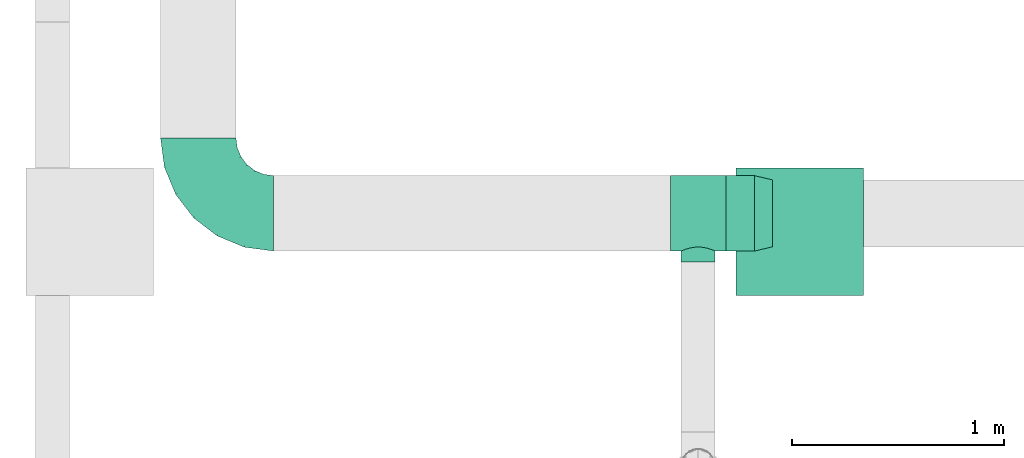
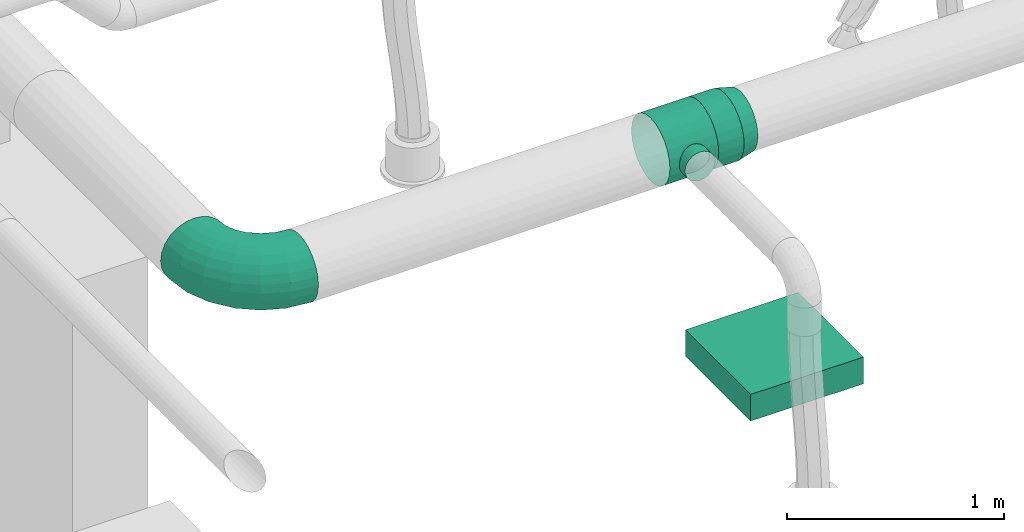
# One storey, part 74 of 374: 3 flow fittings, 1 distribution element, 1 flow segment.
"""IFC2X3 building model written with IfcOpenShell, lengths in metres."""

from ifc_helpers import new_model, si_unit, direction, frame, frame_2d, origin, place, context, subcontext, project, spatial, rectangle, extrude, open_shell, surface_model, source, transform, mapped, element, save


model = new_model("IFC2X3")

# Units and contexts
model_context = context("Model", 3, precision=1e-05, world=origin(), true_north=direction((-0.4480736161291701, 0.8939966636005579)))
body_context = subcontext(model_context, "Body", "Model", "MODEL_VIEW")
ifc_project = project(units=[si_unit("LENGTHUNIT", "METRE"), si_unit("AREAUNIT", "SQUARE_METRE"), si_unit("VOLUMEUNIT", "CUBIC_METRE"), si_unit("PLANEANGLEUNIT", "RADIAN"), si_unit("THERMODYNAMICTEMPERATUREUNIT", "KELVIN"), si_unit("MASSUNIT", "GRAM", prefix="KILO"), si_unit("TIMEUNIT", "SECOND")], contexts=[model_context])

# Site, building, storey
site_placement = place(None, origin())
site = spatial("IfcSite", under=ifc_project, at=site_placement, Name="Site 1", CompositionType="ELEMENT")
building_placement = place(site_placement, origin())
building = spatial("IfcBuilding", under=site, at=building_placement, Name="Undefined", CompositionType="ELEMENT")
storey_placement = place(building_placement, origin())
storey = spatial("IfcBuildingStorey", under=building, at=storey_placement, Name="Rez de chauss\x8ee", CompositionType="ELEMENT", Elevation=0.0)

# Flow fitting
shared_shape_1 = source(origin(), body_context, "Body", "SurfaceModel", [
    surface_model("IfcFaceBasedSurfaceModel", [(0.0, 0.046336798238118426, 0.0), (0.0, 0.0, 0.0), (0.2599999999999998, -7.105427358e-15, 0.0), (0.259999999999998, 0.04633679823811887, 0.0), (0.0, -0.044757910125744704, -0.0119928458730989), (0.259999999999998, -0.04475791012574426, -0.0119928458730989), (0.0, -0.08488675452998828, -0.035161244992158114), (0.259999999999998, -0.08488675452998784, -0.03516124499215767), (0.0, -0.11765181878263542, -0.06792630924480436), (0.259999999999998, -0.11765181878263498, -0.06792630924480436), (0.0, -0.1408202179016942, -0.10805515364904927), (0.259999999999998, -0.14082021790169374, -0.10805515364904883), (0.0, -0.15281306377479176, -0.15281306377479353), (0.259999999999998, -0.1528130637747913, -0.15281306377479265), (0.0, -0.1528130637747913, -0.19914986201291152), (0.259999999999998, -0.15281306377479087, -0.19914986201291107), (0.0, -0.14082021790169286, -0.24390777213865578), (0.259999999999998, -0.14082021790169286, -0.24390777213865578), (0.0, -0.11765181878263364, -0.2840366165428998), (0.259999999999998, -0.1176518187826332, -0.28403661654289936), (0.0, -0.0848867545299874, -0.31680168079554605), (0.259999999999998, -0.08488675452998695, -0.31680168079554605), (0.0, -0.044757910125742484, -0.3399700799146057), (0.259999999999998, -0.04475791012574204, -0.33997007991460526), (0.0, 1.776356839e-15, -0.35196292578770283), (0.259999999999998, 2.220446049e-15, -0.35196292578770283), (0.0, 0.0463367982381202, -0.3519629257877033), (0.259999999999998, 0.04633679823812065, -0.35196292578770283), (0.0, 0.09109470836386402, -0.3399700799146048), (0.259999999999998, 0.09109470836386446, -0.3399700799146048), (0.0, 0.13122355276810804, -0.31680168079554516), (0.259999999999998, 0.1312235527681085, -0.3168016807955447), (0.0, 0.16398861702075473, -0.2840366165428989), (0.259999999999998, 0.16398861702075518, -0.2840366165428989), (0.0, 0.18715701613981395, -0.243907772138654), (0.259999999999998, 0.18715701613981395, -0.24390777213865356), (0.0, 0.19914986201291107, -0.19914986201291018), (0.259999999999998, 0.19914986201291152, -0.1991498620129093), (0.0, 0.19914986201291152, -0.15281306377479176), (0.259999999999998, 0.19914986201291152, -0.1528130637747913), (0.0, 0.18715701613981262, -0.1080551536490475), (0.259999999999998, 0.18715701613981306, -0.1080551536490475), (0.0, 0.1639886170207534, -0.06792630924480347), (0.259999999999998, 0.16398861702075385, -0.06792630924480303), (0.0, 0.1312235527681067, -0.03516124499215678), (0.259999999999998, 0.13122355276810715, -0.03516124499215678), (0.0, 0.09109470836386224, -0.011992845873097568), (0.259999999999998, 0.09109470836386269, -0.011992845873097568), (0.21000000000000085, 0.19914986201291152, -0.1991498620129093), (0.2072740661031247, 0.1952458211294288, -0.2195200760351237), (0.2072740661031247, 0.2484981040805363, -0.2265308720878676), (0.21000000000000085, 0.251200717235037, -0.2060024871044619), (0.19928203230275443, 0.18940211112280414, -0.23821170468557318), (0.19928203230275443, 0.24597966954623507, -0.24566028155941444), (0.18656854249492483, 0.18258998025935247, -0.25402638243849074), (0.18656854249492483, 0.24381704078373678, -0.2620870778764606), (0.1699999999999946, 0.17614766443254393, -0.2660014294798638), (0.1699999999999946, 0.242157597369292, -0.27469180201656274), (0.15070552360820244, 0.17151167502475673, -0.2734520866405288), (0.15070552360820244, 0.24111442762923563, -0.28261546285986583), (0.12999999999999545, 0.16982026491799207, -0.27597886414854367), (0.12999999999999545, 0.24075862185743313, -0.285318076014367), (0.10929447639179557, 0.17151167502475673, -0.2734520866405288), (0.10929447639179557, 0.24111442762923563, -0.28261546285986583), (0.0899999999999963, 0.17614766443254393, -0.2660014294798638), (0.0899999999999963, 0.242157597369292, -0.27469180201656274), (0.07343145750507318, 0.18258998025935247, -0.25402638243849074), (0.07343145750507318, 0.24381704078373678, -0.2620870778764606), (0.06071796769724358, 0.18940211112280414, -0.23821170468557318), (0.06071796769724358, 0.24597966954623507, -0.24566028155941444), (0.0527259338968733, 0.1952458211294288, -0.2195200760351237), (0.0527259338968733, 0.2484981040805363, -0.2265308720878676), (0.04999999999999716, 0.19914986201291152, -0.1991498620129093), (0.04999999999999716, 0.251200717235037, -0.2060024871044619), (0.0527259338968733, 0.2006510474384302, -0.1784633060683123), (0.0527259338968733, 0.2539033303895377, -0.1854741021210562), (0.06071796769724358, 0.19984420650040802, -0.15889611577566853), (0.06071796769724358, 0.25642176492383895, -0.1663446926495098), (0.07343145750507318, 0.19735733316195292, -0.14185720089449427), (0.07343145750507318, 0.25858439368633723, -0.1499178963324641), (0.0899999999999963, 0.19423390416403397, -0.12862279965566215), (0.0899999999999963, 0.260243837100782, -0.13731317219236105), (0.10929447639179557, 0.1916842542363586, -0.12022613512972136), (0.10929447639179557, 0.2612870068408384, -0.1293895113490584), (0.12999999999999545, 0.19070445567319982, -0.11734768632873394), (0.12999999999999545, 0.2616428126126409, -0.12668689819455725), (0.15070552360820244, 0.1916842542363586, -0.12022613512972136), (0.15070552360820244, 0.2612870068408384, -0.1293895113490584), (0.1699999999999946, 0.19423390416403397, -0.12862279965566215), (0.1699999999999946, 0.260243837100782, -0.13731317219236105), (0.18656854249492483, 0.19735733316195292, -0.14185720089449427), (0.18656854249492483, 0.25858439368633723, -0.1499178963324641), (0.19928203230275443, 0.19984420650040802, -0.15889611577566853), (0.19928203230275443, 0.25642176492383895, -0.1663446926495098), (0.2072740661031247, 0.2006510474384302, -0.1784633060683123), (0.2072740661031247, 0.2539033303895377, -0.1854741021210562)], [open_shell([[[0, 1, 2, 3]], [[1, 4, 5, 2]], [[4, 6, 7, 5]], [[6, 8, 9, 7]], [[8, 10, 11, 9]], [[10, 12, 13, 11]], [[12, 14, 15, 13]], [[14, 16, 17, 15]], [[16, 18, 19, 17]], [[18, 20, 21, 19]], [[20, 22, 23, 21]], [[22, 24, 25, 23]], [[24, 26, 27, 25]], [[26, 28, 29, 27]], [[28, 30, 31, 29]], [[30, 32, 33, 31]], [[32, 34, 35, 33]], [[34, 36, 37, 35]], [[36, 38, 39, 37]], [[38, 40, 41, 39]], [[40, 42, 43, 41]], [[42, 44, 45, 43]], [[44, 46, 47, 45]], [[46, 0, 3, 47]], [[48, 49, 50, 51]], [[49, 52, 53, 50]], [[52, 54, 55, 53]], [[54, 56, 57, 55]], [[56, 58, 59, 57]], [[58, 60, 61, 59]], [[60, 62, 63, 61]], [[62, 64, 65, 63]], [[64, 66, 67, 65]], [[66, 68, 69, 67]], [[68, 70, 71, 69]], [[70, 72, 73, 71]], [[72, 74, 75, 73]], [[74, 76, 77, 75]], [[76, 78, 79, 77]], [[78, 80, 81, 79]], [[80, 82, 83, 81]], [[82, 84, 85, 83]], [[84, 86, 87, 85]], [[86, 88, 89, 87]], [[88, 90, 91, 89]], [[90, 92, 93, 91]], [[92, 94, 95, 93]], [[94, 48, 51, 95]]])]),
])
flow_fitting_1_placement = place(storey_placement, origin())
element("IfcFlowFitting", 1, at=flow_fitting_1_placement, inside=storey, Name="Pièce en té 90°", ObjectType="Pièce en té 90°", context=body_context, shape_type="MappedRepresentation", body=[
    mapped(shared_shape_1, transform((48.42000056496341, 8.270940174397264, 3.9714518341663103), x_axis=(-1.0, 0.0, 0.0), y_axis=(7.266545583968e-12, -0.9914448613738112, 0.13052619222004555), z_axis=(0.0, 0.13052619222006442, 0.9914448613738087))),
])

# Flow segment
shared_shape_2 = source(origin(), body_context, "Body", "SurfaceModel", [
    surface_model("IfcFaceBasedSurfaceModel", [(0.0, 0.046336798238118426, 0.0), (0.0, 0.0, 0.0), (0.13500000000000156, -7.105427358e-15, 8.8817842e-16), (0.13500000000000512, 0.046336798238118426, 0.0), (0.0, -0.044757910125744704, -0.0119928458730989), (0.13500000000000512, -0.044757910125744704, -0.0119928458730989), (0.0, -0.08488675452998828, -0.035161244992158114), (0.13500000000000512, -0.08488675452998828, -0.035161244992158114), (0.0, -0.11765181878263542, -0.06792630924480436), (0.13500000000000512, -0.11765181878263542, -0.06792630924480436), (0.0, -0.1408202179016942, -0.10805515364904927), (0.13500000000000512, -0.1408202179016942, -0.10805515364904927), (0.0, -0.15281306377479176, -0.15281306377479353), (0.13500000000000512, -0.15281306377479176, -0.15281306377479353), (0.0, -0.1528130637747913, -0.19914986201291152), (0.13500000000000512, -0.1528130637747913, -0.19914986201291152), (0.0, -0.14082021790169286, -0.24390777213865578), (0.13500000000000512, -0.14082021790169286, -0.24390777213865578), (0.0, -0.11765181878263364, -0.2840366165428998), (0.13500000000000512, -0.11765181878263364, -0.2840366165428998), (0.0, -0.0848867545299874, -0.31680168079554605), (0.13500000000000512, -0.0848867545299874, -0.31680168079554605), (0.0, -0.044757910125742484, -0.3399700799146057), (0.13500000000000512, -0.044757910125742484, -0.3399700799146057), (0.0, 1.776356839e-15, -0.35196292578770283), (0.13500000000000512, 1.776356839e-15, -0.35196292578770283), (0.0, 0.0463367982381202, -0.3519629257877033), (0.13500000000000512, 0.0463367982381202, -0.3519629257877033), (0.0, 0.09109470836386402, -0.3399700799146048), (0.13500000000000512, 0.09109470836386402, -0.3399700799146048), (0.0, 0.13122355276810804, -0.31680168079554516), (0.13500000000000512, 0.13122355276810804, -0.31680168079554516), (0.0, 0.16398861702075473, -0.2840366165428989), (0.13500000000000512, 0.16398861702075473, -0.2840366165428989), (0.0, 0.18715701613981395, -0.243907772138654), (0.13500000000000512, 0.18715701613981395, -0.243907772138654), (0.0, 0.19914986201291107, -0.19914986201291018), (0.13500000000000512, 0.19914986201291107, -0.19914986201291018), (0.0, 0.19914986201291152, -0.15281306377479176), (0.13500000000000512, 0.19914986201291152, -0.15281306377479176), (0.0, 0.18715701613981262, -0.1080551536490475), (0.13500000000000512, 0.18715701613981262, -0.1080551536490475), (0.0, 0.1639886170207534, -0.06792630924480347), (0.13500000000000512, 0.1639886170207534, -0.06792630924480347), (0.0, 0.1312235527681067, -0.03516124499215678), (0.13500000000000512, 0.1312235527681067, -0.03516124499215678), (0.0, 0.09109470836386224, -0.011992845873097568), (0.13500000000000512, 0.09109470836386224, -0.011992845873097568)], [open_shell([[[0, 1, 2, 3]], [[1, 4, 5, 2]], [[4, 6, 7, 5]], [[6, 8, 9, 7]], [[8, 10, 11, 9]], [[10, 12, 13, 11]], [[12, 14, 15, 13]], [[14, 16, 17, 15]], [[16, 18, 19, 17]], [[18, 20, 21, 19]], [[20, 22, 23, 21]], [[22, 24, 25, 23]], [[24, 26, 27, 25]], [[26, 28, 29, 27]], [[28, 30, 31, 29]], [[30, 32, 33, 31]], [[32, 34, 35, 33]], [[34, 36, 37, 35]], [[36, 38, 39, 37]], [[38, 40, 41, 39]], [[40, 42, 43, 41]], [[42, 44, 45, 43]], [[44, 46, 47, 45]], [[46, 0, 3, 47]]])]),
])
flow_segment_placement = place(storey_placement, origin())
element("IfcFlowSegment", 2, at=flow_segment_placement, inside=storey, Name="Manchon", ObjectType="Manchon", context=body_context, shape_type="MappedRepresentation", body=[
    mapped(shared_shape_2, transform((48.42000056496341, 8.17905941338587, 3.9714518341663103), x_axis=(1.0, 0.0, 0.0), y_axis=(0.0, 0.9914448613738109, 0.1305261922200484), z_axis=(0.0, -0.1305261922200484, 0.9914448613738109))),
])

# Flow fittings
shared_shape_3 = source(origin(), body_context, "Body", "SurfaceModel", [
    surface_model("IfcFaceBasedSurfaceModel", [(0.0013852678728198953, 0.04631608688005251, -3.552713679e-15), (0.0, 0.0, 0.0), (0.08732124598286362, 1.776356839e-15, 7.105427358e-15), (0.088550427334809, 0.04109737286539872, -3.552713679e-15), (0.0013852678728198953, -0.04481935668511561, -0.011679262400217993), (0.0885504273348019, -0.03976928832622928, -0.010363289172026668), (0.005446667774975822, -0.08508761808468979, -0.03424186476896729), (0.09215420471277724, -0.07550028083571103, -0.03038362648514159), (0.011907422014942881, -0.11806056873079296, -0.0661502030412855), (0.09788698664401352, -0.10475796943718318, -0.05869665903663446), (0.02032724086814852, -0.14149115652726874, -0.10522977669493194), (0.10535809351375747, -0.12554849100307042, -0.09337290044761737), (0.030132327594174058, -0.15378262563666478, -0.14881737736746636), (0.1140583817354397, -0.13645500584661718, -0.13204922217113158), (0.04065448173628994, -0.15409733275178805, -0.19394258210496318), (0.12339494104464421, -0.1367342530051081, -0.17208989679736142), (0.05117663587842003, -0.14241383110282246, -0.23753018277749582), (0.13273150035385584, -0.1263672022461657, -0.2107662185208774), (0.060981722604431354, -0.11952833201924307, -0.2766097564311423), (0.14143178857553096, -0.10606035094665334, -0.24544245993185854), (0.0694015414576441, -0.0870004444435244, -0.3085180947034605), (0.148902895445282, -0.0771975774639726, -0.2737554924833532), (0.07586229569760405, -0.047046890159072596, -0.3310806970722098), (0.1546356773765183, -0.041745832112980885, -0.2937758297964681), (0.07992369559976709, -0.002390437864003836, -0.3427599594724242), (0.15823945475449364, -0.002121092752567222, -0.30413911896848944), (0.08130896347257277, 0.04392564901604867, -0.3427599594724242), (0.1594686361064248, 0.038976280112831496, -0.30413911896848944), (0.07992369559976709, 0.08874500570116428, -0.3310806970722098), (0.15823945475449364, 0.07874556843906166, -0.2937758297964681), (0.07586229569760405, 0.12901326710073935, -0.3085180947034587), (0.15463567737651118, 0.11447656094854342, -0.2737554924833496), (0.0694015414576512, 0.16198621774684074, -0.2766097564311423), (0.148902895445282, 0.1437342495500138, -0.2454424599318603), (0.06098172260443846, 0.1854168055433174, -0.23753018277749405), (0.14143178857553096, 0.16452477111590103, -0.21076621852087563), (0.05117663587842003, 0.19770827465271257, -0.19394258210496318), (0.13273150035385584, 0.17543128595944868, -0.17208989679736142), (0.04065448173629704, 0.19802298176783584, -0.1488173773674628), (0.12339494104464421, 0.17571053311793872, -0.13204922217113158), (0.030132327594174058, 0.18633948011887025, -0.10522977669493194), (0.1140583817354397, 0.16534348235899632, -0.09337290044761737), (0.02032724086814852, 0.16345398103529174, -0.06615020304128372), (0.10535809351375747, 0.14503663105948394, -0.05869665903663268), (0.011907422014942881, 0.13092609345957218, -0.034241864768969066), (0.09788698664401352, 0.1161738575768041, -0.03038362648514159), (0.005446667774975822, 0.09097253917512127, -0.011679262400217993), (0.09215420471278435, 0.0807221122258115, -0.010363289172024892)], [open_shell([[[0, 1, 2, 3]], [[1, 4, 5, 2]], [[4, 6, 7, 5]], [[6, 8, 9, 7]], [[8, 10, 11, 9]], [[10, 12, 13, 11]], [[12, 14, 15, 13]], [[14, 16, 17, 15]], [[16, 18, 19, 17]], [[18, 20, 21, 19]], [[20, 22, 23, 21]], [[22, 24, 25, 23]], [[24, 26, 27, 25]], [[26, 28, 29, 27]], [[28, 30, 31, 29]], [[30, 32, 33, 31]], [[32, 34, 35, 33]], [[34, 36, 37, 35]], [[36, 38, 39, 37]], [[38, 40, 41, 39]], [[40, 42, 43, 41]], [[42, 44, 45, 43]], [[44, 46, 47, 45]], [[46, 0, 3, 47]]])]),
])
flow_fitting_2_placement = place(storey_placement, origin())
element("IfcFlowFitting", 3, at=flow_fitting_2_placement, inside=storey, Name="Réduction conique", ObjectType="Réduction conique", context=body_context, shape_type="MappedRepresentation", body=[
    mapped(shared_shape_3, transform((48.555000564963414, 8.053547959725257, 3.7540596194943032), x_axis=(0.9734171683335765, 0.22123500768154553, 0.059279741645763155), y_axis=(-0.029113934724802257, -0.13720147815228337, 0.9901152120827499), z_axis=(0.22718141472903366, -0.9655210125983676, -0.1271132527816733))),
])
shared_shape_4 = source(origin(), body_context, "Body", "SurfaceModel", [
    surface_model("IfcFaceBasedSurfaceModel", [(0.13901039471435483, 0.0, -2.22044605e-16), (0.13822095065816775, 0.04633007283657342, -2.22044605e-16), (0.0007894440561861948, 0.04633007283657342, 0.0), (0.0, 0.0, 0.0), (-0.13195919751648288, 0.05093382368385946, -0.03527070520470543), (-0.13427373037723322, 0.0046566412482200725, -0.035675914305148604), (-0.25097837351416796, 0.05982758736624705, -0.10340847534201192), (-0.2546602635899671, 0.01365258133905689, -0.10459648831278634), (-0.3481571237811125, 0.07240526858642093, -0.19976983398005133), (-0.35295545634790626, 0.02637476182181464, -0.20206489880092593), (-0.4168728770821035, 0.08780971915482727, -0.3177879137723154), (-0.42246065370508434, 0.04195618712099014, -0.32143883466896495), (-0.4524427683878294, 0.1049911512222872, -0.4494199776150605), (-0.45843919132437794, 0.05933500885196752, -0.4545831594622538), (0.13590641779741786, 0.0910550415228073, -0.01189197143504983), (0.003103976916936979, 0.0910550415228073, -0.01189197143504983), (-0.12517333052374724, 0.09550372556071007, -0.04597466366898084), (-0.24018361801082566, 0.10409792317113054, -0.11181736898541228), (-0.3340891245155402, 0.11625195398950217, -0.2049330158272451), (-0.4004903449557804, 0.13113754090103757, -0.31897592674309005), (-0.43486214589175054, 0.14774025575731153, -0.44617426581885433), (0.13222452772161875, 0.13112697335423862, -0.03486549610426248), (0.006785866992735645, 0.13112697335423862, -0.03486549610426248), (-0.11437857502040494, 0.1353289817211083, -0.06705833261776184), (-0.22301164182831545, 0.14344663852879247, -0.12925011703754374), (-0.31171016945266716, 0.1549267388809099, -0.217202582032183), (-0.3744294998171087, 0.16898693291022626, -0.3249219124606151), (-0.40689541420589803, 0.18466904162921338, -0.4450672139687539), (0.127426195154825, 0.16381503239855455, -0.0673549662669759), (0.011584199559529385, 0.16381503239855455, -0.0673549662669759), (-0.10031057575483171, 0.1676955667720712, -0.0970848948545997), (-0.20063268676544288, 0.17519218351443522, -0.15451870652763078), (-0.28254534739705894, 0.1857940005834, -0.2357423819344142), (-0.3404663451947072, 0.19877852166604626, -0.33522066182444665), (-0.37044845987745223, 0.21326087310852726, -0.44617426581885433), (0.12183841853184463, 0.18689158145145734, -0.10714627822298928), (0.017171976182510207, 0.18689158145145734, -0.10714627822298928), (-0.08392804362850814, 0.19039775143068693, -0.13400808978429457), (-0.17457184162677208, 0.19717115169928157, -0.18590112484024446), (-0.24858219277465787, 0.20675018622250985, -0.2592889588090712), (-0.3009154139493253, 0.21848205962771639, -0.3491703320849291), (-0.3280050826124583, 0.23156726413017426, -0.44941997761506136), (0.11584199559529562, 0.1987839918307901, -0.15152771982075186), (0.02316839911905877, 0.1987839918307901, -0.15152771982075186), (-0.06634742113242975, 0.20188841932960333, -0.17531166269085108), (-0.14660510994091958, 0.207885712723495, -0.22125871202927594), (-0.21213523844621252, 0.21636716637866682, -0.2862376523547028), (-0.25847203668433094, 0.22675478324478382, -0.3658202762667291), (-0.28245772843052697, 0.23834066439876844, -0.45458315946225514), (0.10984557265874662, 0.19868181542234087, -0.19747476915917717), (0.029164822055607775, 0.19868181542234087, -0.19747476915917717), (-0.04876679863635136, 0.20138450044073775, -0.21818084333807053), (-0.11863837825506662, 0.20660568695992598, -0.2581819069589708), (-0.17568828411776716, 0.21398955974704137, -0.3147519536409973), (-0.21602865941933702, 0.22303292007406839, -0.38403582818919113), (-0.23691037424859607, 0.23311947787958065, -0.46131194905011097), (0.10425779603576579, 0.18659201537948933, -0.24185621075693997), (0.0347525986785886, 0.18659201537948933, -0.24185621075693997), (-0.03238426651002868, 0.18892033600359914, -0.25969416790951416), (-0.09257753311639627, 0.193418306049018, -0.29415445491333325), (-0.14172512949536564, 0.19977939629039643, -0.3428886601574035), (-0.17647772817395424, 0.20757010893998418, -0.4025756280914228), (-0.1944669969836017, 0.2162595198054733, -0.4691477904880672), (0.09945946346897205, 0.16333849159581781, -0.2816475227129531), (0.03955093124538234, 0.16333849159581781, -0.2816475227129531), (-0.018316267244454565, 0.1653453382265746, -0.297022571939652), (-0.0701985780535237, 0.1692222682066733, -0.3267248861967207), (-0.11256030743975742, 0.17470507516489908, -0.3687303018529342), (-0.14251457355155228, 0.18142011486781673, -0.4201762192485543), (-0.1580200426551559, 0.1889097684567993, -0.4775566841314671), (0.09577757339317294, 0.13050593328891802, -0.3141369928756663), (0.043232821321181, 0.13050593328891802, -0.3141369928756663), (-0.007521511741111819, 0.1322661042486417, -0.3276221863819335), (-0.053026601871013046, 0.13566649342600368, -0.3536735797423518), (-0.0901813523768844, 0.1404753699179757, -0.39051581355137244), (-0.11645372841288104, 0.1463650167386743, -0.4356381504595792), (-0.13005331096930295, 0.15293406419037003, -0.4859655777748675), (0.09346304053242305, 0.09033182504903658, -0.33711051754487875), (0.0455473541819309, 0.09033182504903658, -0.33711051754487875), (-0.0007356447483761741, 0.09193692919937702, -0.34940769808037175), (-0.0422318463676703, 0.09503775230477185, -0.37316402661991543), (-0.07611335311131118, 0.09942297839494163, -0.4067605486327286), (-0.10007119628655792, 0.1047937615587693, -0.4479077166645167), (-0.112472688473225, 0.1107840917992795, -0.4938014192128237), (0.09267359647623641, 0.04555396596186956, -0.3490024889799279), (0.046336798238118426, 0.04555396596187, -0.34900248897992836), (0.001578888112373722, 0.0471061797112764, -0.3608944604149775), (-0.038549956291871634, 0.050104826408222, -0.3838679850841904), (-0.07131502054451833, 0.05434555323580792, -0.4163574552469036), (-0.09448341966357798, 0.05953936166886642, -0.45614876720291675), (-0.106476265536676, 0.06533230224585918, -0.5005302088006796), (0.09346304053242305, -0.0007761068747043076, -0.34900248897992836), (0.0455473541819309, -0.0007761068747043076, -0.3490024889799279), (-0.0007356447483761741, 0.000828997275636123, -0.36129966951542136), (-0.0422318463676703, 0.003929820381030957, -0.3850559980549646), (-0.07611335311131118, 0.008315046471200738, -0.4186525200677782), (-0.10007119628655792, 0.013685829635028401, -0.4597996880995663), (-0.112472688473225, 0.019676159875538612, -0.5056933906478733), (0.09577757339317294, -0.0455010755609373, -0.3371105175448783), (0.043232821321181, -0.0455010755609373, -0.3371105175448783), (-0.007521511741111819, -0.043740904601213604, -0.3505957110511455), (-0.053026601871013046, -0.04034051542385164, -0.3766471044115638), (-0.0901813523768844, -0.035531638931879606, -0.4134893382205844), (-0.11645372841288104, -0.029641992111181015, -0.4586116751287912), (-0.13005331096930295, -0.023072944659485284, -0.5089391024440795), (0.09945946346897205, -0.08557300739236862, -0.3141369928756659), (0.03955093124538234, -0.08557300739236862, -0.3141369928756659), (-0.018316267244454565, -0.08356616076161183, -0.32951204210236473), (-0.0701985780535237, -0.07968923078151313, -0.35921435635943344), (-0.11256030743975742, -0.07420642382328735, -0.40121977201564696), (-0.14251457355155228, -0.0674913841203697, -0.45266568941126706), (-0.1580200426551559, -0.06000173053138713, -0.5100461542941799), (0.10425779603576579, -0.11826106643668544, -0.28164752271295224), (0.0347525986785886, -0.11826106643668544, -0.28164752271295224), (-0.03238426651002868, -0.11593274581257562, -0.2994854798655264), (-0.09257753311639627, -0.11143477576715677, -0.3339457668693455), (-0.14172512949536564, -0.10507368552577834, -0.38267997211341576), (-0.17647772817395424, -0.09728297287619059, -0.44236694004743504), (-0.1944669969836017, -0.08859356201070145, -0.5089391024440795), (0.10984557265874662, -0.1413376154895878, -0.24185621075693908), (0.029164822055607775, -0.1413376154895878, -0.24185621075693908), (-0.04876679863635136, -0.1386349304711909, -0.26256228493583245), (-0.11863837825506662, -0.13341374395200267, -0.3025633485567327), (-0.17568828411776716, -0.12602987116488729, -0.3591333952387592), (-0.21602865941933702, -0.11698651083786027, -0.42841726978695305), (-0.23691037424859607, -0.106899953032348, -0.5056933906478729), (0.11584199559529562, -0.15323002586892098, -0.19747476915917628), (0.02316839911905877, -0.15323002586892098, -0.19747476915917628), (-0.06634742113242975, -0.15012559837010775, -0.2212587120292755), (-0.14660510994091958, -0.1441283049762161, -0.26720576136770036), (-0.21213523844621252, -0.13564685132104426, -0.3321847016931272), (-0.25847203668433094, -0.12525923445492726, -0.4117673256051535), (-0.28245772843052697, -0.11367335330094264, -0.5005302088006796), (0.12183841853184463, -0.1531278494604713, -0.15152771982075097), (0.017171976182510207, -0.1531278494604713, -0.15152771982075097), (-0.08392804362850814, -0.14962167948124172, -0.1783895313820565), (-0.17457184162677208, -0.1428482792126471, -0.23028256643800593), (-0.24858219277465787, -0.13326924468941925, -0.3036704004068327), (-0.3009154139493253, -0.12153737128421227, -0.39355177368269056), (-0.3280050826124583, -0.1084521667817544, -0.49380141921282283), (0.127426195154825, -0.14103804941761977, -0.10714627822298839), (0.011584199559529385, -0.14103804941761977, -0.10714627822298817), (-0.10031057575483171, -0.13715751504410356, -0.13687620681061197), (-0.20063268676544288, -0.1296608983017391, -0.19431001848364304), (-0.28254534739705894, -0.11905908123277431, -0.2755336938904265), (-0.3404663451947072, -0.10607456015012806, -0.3750119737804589), (-0.37044845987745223, -0.09159220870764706, -0.4859655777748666), (0.13222452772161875, -0.11778452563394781, -0.06735496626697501), (0.006785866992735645, -0.11778452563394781, -0.06735496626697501), (-0.11437857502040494, -0.11358251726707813, -0.09954780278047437), (-0.22301164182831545, -0.10546486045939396, -0.1617395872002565), (-0.31171016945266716, -0.09398476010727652, -0.24969205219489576), (-0.3744294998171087, -0.07992456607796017, -0.35741138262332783), (-0.40689541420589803, -0.06424245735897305, -0.4775566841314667), (0.13590641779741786, -0.08495196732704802, -0.03486549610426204), (0.003103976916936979, -0.08495196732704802, -0.03486549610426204), (-0.12517333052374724, -0.08050328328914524, -0.06894818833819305), (-0.24018361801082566, -0.07190908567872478, -0.1347908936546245), (-0.3340891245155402, -0.05975505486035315, -0.2279065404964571), (-0.4004903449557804, -0.04486946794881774, -0.34194945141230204), (-0.43486214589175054, -0.028266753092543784, -0.4691477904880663), (0.13822095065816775, -0.04477785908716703, -0.011891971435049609), (0.0007894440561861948, -0.04477785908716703, -0.011891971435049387), (-0.13195919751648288, -0.04017410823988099, -0.04716267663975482), (-0.25097837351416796, -0.0312803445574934, -0.1153004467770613), (-0.3481571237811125, -0.018702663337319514, -0.21166180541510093), (-0.4168728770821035, -0.003298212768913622, -0.3296798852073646), (-0.4524427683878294, 0.013883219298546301, -0.46131194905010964)], [open_shell([[[0, 1, 2, 3]], [[3, 2, 4, 5]], [[5, 4, 6, 7]], [[7, 6, 8, 9]], [[9, 8, 10, 11]], [[11, 10, 12, 13]], [[1, 14, 15, 2]], [[2, 15, 16, 4]], [[4, 16, 17, 6]], [[6, 17, 18, 8]], [[8, 18, 19, 10]], [[10, 19, 20, 12]], [[14, 21, 22, 15]], [[15, 22, 23, 16]], [[16, 23, 24, 17]], [[17, 24, 25, 18]], [[18, 25, 26, 19]], [[19, 26, 27, 20]], [[21, 28, 29, 22]], [[22, 29, 30, 23]], [[23, 30, 31, 24]], [[24, 31, 32, 25]], [[25, 32, 33, 26]], [[26, 33, 34, 27]], [[28, 35, 36, 29]], [[29, 36, 37, 30]], [[30, 37, 38, 31]], [[31, 38, 39, 32]], [[32, 39, 40, 33]], [[33, 40, 41, 34]], [[35, 42, 43, 36]], [[36, 43, 44, 37]], [[37, 44, 45, 38]], [[38, 45, 46, 39]], [[39, 46, 47, 40]], [[40, 47, 48, 41]], [[42, 49, 50, 43]], [[43, 50, 51, 44]], [[44, 51, 52, 45]], [[45, 52, 53, 46]], [[46, 53, 54, 47]], [[47, 54, 55, 48]], [[49, 56, 57, 50]], [[50, 57, 58, 51]], [[51, 58, 59, 52]], [[52, 59, 60, 53]], [[53, 60, 61, 54]], [[54, 61, 62, 55]], [[56, 63, 64, 57]], [[57, 64, 65, 58]], [[58, 65, 66, 59]], [[59, 66, 67, 60]], [[60, 67, 68, 61]], [[61, 68, 69, 62]], [[63, 70, 71, 64]], [[64, 71, 72, 65]], [[65, 72, 73, 66]], [[66, 73, 74, 67]], [[67, 74, 75, 68]], [[68, 75, 76, 69]], [[70, 77, 78, 71]], [[71, 78, 79, 72]], [[72, 79, 80, 73]], [[73, 80, 81, 74]], [[74, 81, 82, 75]], [[75, 82, 83, 76]], [[77, 84, 85, 78]], [[78, 85, 86, 79]], [[79, 86, 87, 80]], [[80, 87, 88, 81]], [[81, 88, 89, 82]], [[82, 89, 90, 83]], [[84, 91, 92, 85]], [[85, 92, 93, 86]], [[86, 93, 94, 87]], [[87, 94, 95, 88]], [[88, 95, 96, 89]], [[89, 96, 97, 90]], [[91, 98, 99, 92]], [[92, 99, 100, 93]], [[93, 100, 101, 94]], [[94, 101, 102, 95]], [[95, 102, 103, 96]], [[96, 103, 104, 97]], [[98, 105, 106, 99]], [[99, 106, 107, 100]], [[100, 107, 108, 101]], [[101, 108, 109, 102]], [[102, 109, 110, 103]], [[103, 110, 111, 104]], [[105, 112, 113, 106]], [[106, 113, 114, 107]], [[107, 114, 115, 108]], [[108, 115, 116, 109]], [[109, 116, 117, 110]], [[110, 117, 118, 111]], [[112, 119, 120, 113]], [[113, 120, 121, 114]], [[114, 121, 122, 115]], [[115, 122, 123, 116]], [[116, 123, 124, 117]], [[117, 124, 125, 118]], [[119, 126, 127, 120]], [[120, 127, 128, 121]], [[121, 128, 129, 122]], [[122, 129, 130, 123]], [[123, 130, 131, 124]], [[124, 131, 132, 125]], [[126, 133, 134, 127]], [[127, 134, 135, 128]], [[128, 135, 136, 129]], [[129, 136, 137, 130]], [[130, 137, 138, 131]], [[131, 138, 139, 132]], [[133, 140, 141, 134]], [[134, 141, 142, 135]], [[135, 142, 143, 136]], [[136, 143, 144, 137]], [[137, 144, 145, 138]], [[138, 145, 146, 139]], [[140, 147, 148, 141]], [[141, 148, 149, 142]], [[142, 149, 150, 143]], [[143, 150, 151, 144]], [[144, 151, 152, 145]], [[145, 152, 153, 146]], [[147, 154, 155, 148]], [[148, 155, 156, 149]], [[149, 156, 157, 150]], [[150, 157, 158, 151]], [[151, 158, 159, 152]], [[152, 159, 160, 153]], [[154, 161, 162, 155]], [[155, 162, 163, 156]], [[156, 163, 164, 157]], [[157, 164, 165, 158]], [[158, 165, 166, 159]], [[159, 166, 167, 160]], [[161, 0, 3, 162]], [[162, 3, 5, 163]], [[163, 5, 7, 164]], [[164, 7, 9, 165]], [[165, 9, 11, 166]], [[166, 11, 13, 167]]])]),
])
flow_fitting_3_placement = place(storey_placement, origin())
element("IfcFlowFitting", 4, at=flow_fitting_3_placement, inside=storey, Name="Coude", ObjectType="Coude", context=body_context, shape_type="MappedRepresentation", body=[
    mapped(shared_shape_4, transform((45.776861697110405, 8.442178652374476, 3.8000000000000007), x_axis=(-0.13052619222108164, 0.9914448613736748, 0.0), y_axis=(0.12832103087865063, 0.01689378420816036, -0.9915887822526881), z_axis=(-0.9831056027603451, -0.1294283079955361, -0.12942830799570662))),
])

# Distribution element
distribution_element_placement = place(storey_placement, origin())
element("IfcDistributionElement", 5, at=distribution_element_placement, inside=storey, Name="Decken-Rechteckleuchte mit Rahmen AP", ObjectType="Decken-Rechteckleuchte mit Rahmen AP", context=body_context, shape_type="SweptSolid", body=[
    extrude(rectangle(XDim=0.6000000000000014, YDim=0.6000000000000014, at=frame_2d((3.552713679e-15, 0.0), x_axis=(0.0, 1.0))), frame((48.76792114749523, 8.1375, 2.5500000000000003), z_axis=(0.0, 0.0, -1.0), x_axis=(1.0, 0.0, 0.0)), (0.0, 0.0, 1.0), 0.15),
])

save(model, "model.ifc")
